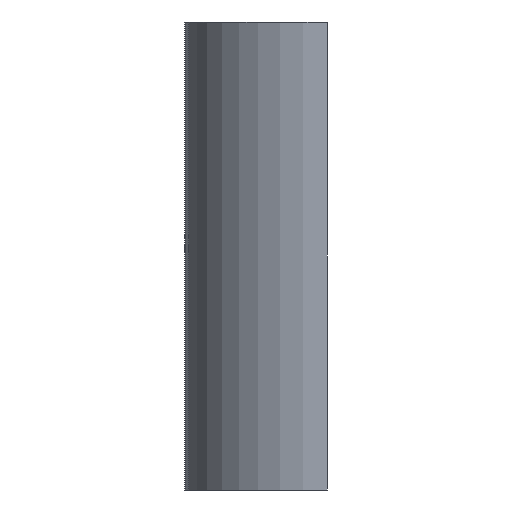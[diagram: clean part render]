
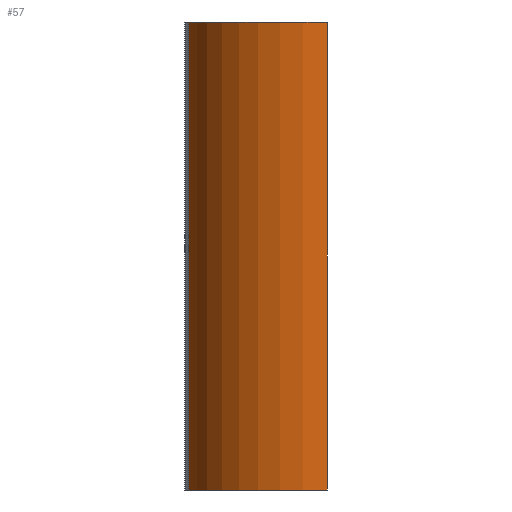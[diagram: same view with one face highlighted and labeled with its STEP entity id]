
A CAD part, left-side view. The second image highlights one B-rep face of the part: STEP entity #57.
In plain terms, the highlighted free-form (B-spline) face has degree [3, 1] with [4, 2] control points.
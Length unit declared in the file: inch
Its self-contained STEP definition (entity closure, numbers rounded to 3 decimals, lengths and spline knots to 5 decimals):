
#57=ADVANCED_FACE('',(#118),#119,.T.);
#118=FACE_OUTER_BOUND('',#217,.T.);
#119=B_SPLINE_SURFACE_WITH_KNOTS('',3,1,((#218,#219),(#220,#221),(#222,#223),(#224,#225)),.UNSPECIFIED.,.F.,.F.,.F.,(4,4),(2,2),(-1.0,-0.0),(0.0,0.8125),.UNSPECIFIED.);
#217=EDGE_LOOP('',(#352,#353,#354,#355));
#218=CARTESIAN_POINT('',(0.18742,0.24002,0.0));
#219=CARTESIAN_POINT('',(0.18742,0.24002,0.8125));
#220=CARTESIAN_POINT('',(0.0773,0.21248,0.0));
#221=CARTESIAN_POINT('',(0.0773,0.21248,0.8125));
#222=CARTESIAN_POINT('',(0.0,0.11353,0.0));
#223=CARTESIAN_POINT('',(0.0,0.11353,0.8125));
#224=CARTESIAN_POINT('',(0.0,0.0,0.0));
#225=CARTESIAN_POINT('',(0.0,0.0,0.8125));
#352=ORIENTED_EDGE('',*,*,#473,.T.);
#353=ORIENTED_EDGE('',*,*,#474,.F.);
#354=ORIENTED_EDGE('',*,*,#443,.F.);
#355=ORIENTED_EDGE('',*,*,#450,.T.);
#443=EDGE_CURVE('',#516,#518,#519,.T.);
#450=EDGE_CURVE('',#516,#529,#531,.T.);
#473=EDGE_CURVE('',#529,#565,#566,.T.);
#474=EDGE_CURVE('',#518,#565,#567,.T.);
#516=VERTEX_POINT('',#629);
#518=VERTEX_POINT('',#632);
#519=B_SPLINE_CURVE_WITH_KNOTS('',3,(#633,#634,#635,#636),.UNSPECIFIED.,.F.,.F.,(4,4),(0.0,1.0),.UNSPECIFIED.);
#529=VERTEX_POINT('',#656);
#531=LINE('',#659,#660);
#565=VERTEX_POINT('',#722);
#566=B_SPLINE_CURVE_WITH_KNOTS('',3,(#723,#724,#725,#726),.UNSPECIFIED.,.F.,.F.,(4,4),(0.0,1.0),.UNSPECIFIED.);
#567=LINE('',#727,#728);
#629=CARTESIAN_POINT('',(0.0,0.0,0.0));
#632=CARTESIAN_POINT('',(0.18742,0.24002,0.0));
#633=CARTESIAN_POINT('',(0.0,0.0,0.0));
#634=CARTESIAN_POINT('',(0.0,0.11353,0.0));
#635=CARTESIAN_POINT('',(0.0773,0.21248,0.0));
#636=CARTESIAN_POINT('',(0.18742,0.24002,0.0));
#656=CARTESIAN_POINT('',(0.0,0.0,0.8125));
#659=CARTESIAN_POINT('',(0.0,0.0,0.0));
#660=VECTOR('',#801,1.0);
#722=CARTESIAN_POINT('',(0.18742,0.24002,0.8125));
#723=CARTESIAN_POINT('',(0.0,0.0,0.8125));
#724=CARTESIAN_POINT('',(0.0,0.11353,0.8125));
#725=CARTESIAN_POINT('',(0.0773,0.21248,0.8125));
#726=CARTESIAN_POINT('',(0.18742,0.24002,0.8125));
#727=CARTESIAN_POINT('',(0.18742,0.24002,0.0));
#728=VECTOR('',#812,1.0);
#801=DIRECTION('',(0.0,0.0,1.0));
#812=DIRECTION('',(0.0,0.0,1.0));
